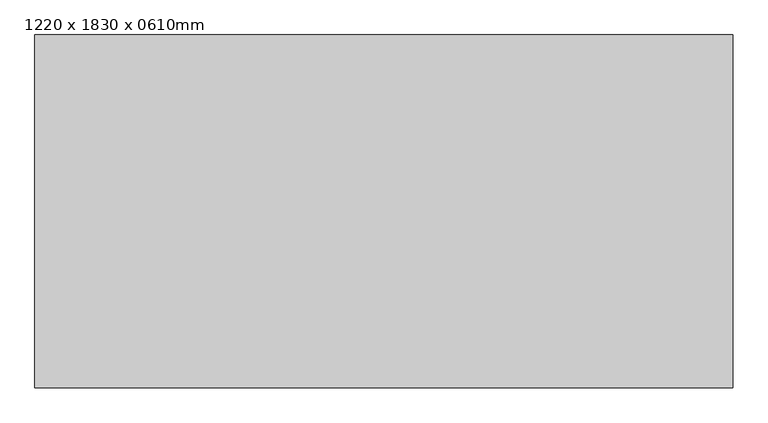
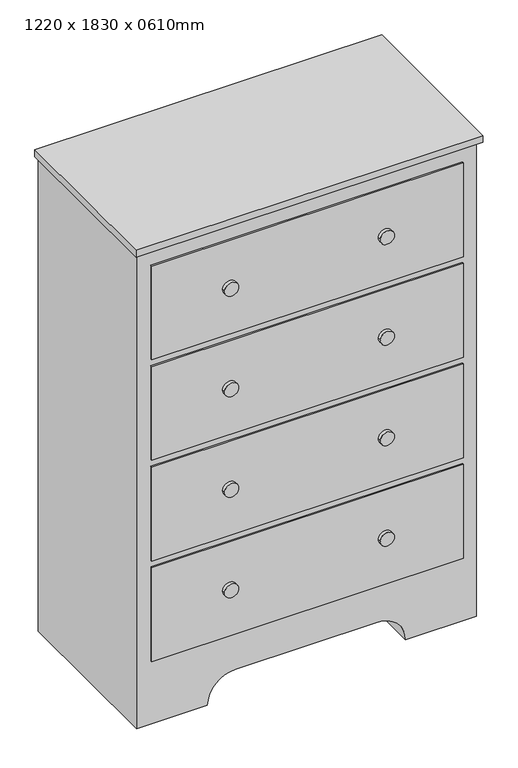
"""IFC4 building model written with IfcOpenShell, lengths in millimetres: furniture geometry, Prádelník : 1220 x 1830 x 0610mm."""

from ifc_helpers import new_model, si_unit, point, frame, frame_2d, origin, place, context, project, spatial, polyline, circle_curve, trimmed, segment, composite_curve, outline, extrude, source, transform, mapped, element, save


def furniture_1220_x_1830_x_0610mm_7cb11019(model_context):
    return source(origin(), model_context, "Body", "SweptSolid", [
        extrude(outline(polyline([(353.5067402, -58.1629541), (353.5067402, -687.2129541), (-891.8932598, -687.2129541), (-891.8932598, -58.1629541), (353.5067402, -58.1629541)])), frame((0.0, 0.0, 1804.6), z_axis=(0.0, 0.0, 1.0), x_axis=(1.0, 0.0, 0.0)), (0.0, 0.0, 1.0), 25.4),
        extrude(outline(composite_curve([segment(polyline([(0.0, 340.8067402), (1804.6, 340.8067402), (1804.6, -879.1932598), (0.0, -879.1932598), (0.0, -625.1932598)]), True, "CONTINUOUS"), segment(trimmed(circle_curve(frame_2d((0.0, -523.5932598)), 101.6), [point((0.0, -625.1932598))], [point((101.6, -523.5932598))], True, "CARTESIAN"), True, "CONTINUOUS"), segment(polyline([(101.6, -523.5932598), (101.6, -14.7932598)]), True, "CONTINUOUS"), segment(trimmed(circle_curve(frame_2d((0.0, -14.7932598)), 101.6), [point((101.6, -14.7932598))], [point((0.0, 86.8067402))], True, "CARTESIAN"), True, "CONTINUOUS"), segment(polyline([(0.0, 86.8067402), (0.0, 340.8067402)]), True, "CONTINUOUS")], self_intersect=False)), frame((0.0, -668.1629541, 0.0), z_axis=(0.0, 1.0, 0.0), x_axis=(0.0, 0.0, 1.0)), (0.0, 0.0, 1.0), 610.0),
        extrude(outline(composite_curve([segment(trimmed(circle_curve(frame_2d((1563.15, 10.4067402)), 25.4), [point((1563.15, -14.9932598))], [point((1563.15, 35.8067402))], False, "CARTESIAN"), True, "CONTINUOUS"), segment(trimmed(circle_curve(frame_2d((1563.15, 10.4067402)), 25.4), [point((1563.15, 35.8067402))], [point((1563.15, -14.9932598))], False, "CARTESIAN"), True, "CONTINUOUS")], self_intersect=False)), frame((0.0, -687.2129541, 0.0), z_axis=(0.0, 1.0, 0.0), x_axis=(0.0, 0.0, 1.0)), (0.0, 0.0, 1.0), 12.7),
        extrude(outline(composite_curve([segment(trimmed(circle_curve(frame_2d((1181.85, 10.4067402)), 25.4), [point((1181.85, -14.9932598))], [point((1181.85, 35.8067402))], False, "CARTESIAN"), True, "CONTINUOUS"), segment(trimmed(circle_curve(frame_2d((1181.85, 10.4067402)), 25.4), [point((1181.85, 35.8067402))], [point((1181.85, -14.9932598))], False, "CARTESIAN"), True, "CONTINUOUS")], self_intersect=False)), frame((0.0, -687.2129541, 0.0), z_axis=(0.0, 1.0, 0.0), x_axis=(0.0, 0.0, 1.0)), (0.0, 0.0, 1.0), 12.7),
        extrude(outline(composite_curve([segment(trimmed(circle_curve(frame_2d((800.55, 10.4067402)), 25.4), [point((800.55, -14.9932598))], [point((800.55, 35.8067402))], False, "CARTESIAN"), True, "CONTINUOUS"), segment(trimmed(circle_curve(frame_2d((800.55, 10.4067402)), 25.4), [point((800.55, 35.8067402))], [point((800.55, -14.9932598))], False, "CARTESIAN"), True, "CONTINUOUS")], self_intersect=False)), frame((0.0, -687.2129541, 0.0), z_axis=(0.0, 1.0, 0.0), x_axis=(0.0, 0.0, 1.0)), (0.0, 0.0, 1.0), 12.7),
        extrude(outline(composite_curve([segment(trimmed(circle_curve(frame_2d((419.25, 10.4067402)), 25.4), [point((419.25, -14.9932598))], [point((419.25, 35.8067402))], False, "CARTESIAN"), True, "CONTINUOUS"), segment(trimmed(circle_curve(frame_2d((419.25, 10.4067402)), 25.4), [point((419.25, 35.8067402))], [point((419.25, -14.9932598))], False, "CARTESIAN"), True, "CONTINUOUS")], self_intersect=False)), frame((0.0, -687.2129541, 0.0), z_axis=(0.0, 1.0, 0.0), x_axis=(0.0, 0.0, 1.0)), (0.0, 0.0, 1.0), 12.7),
        extrude(outline(composite_curve([segment(trimmed(circle_curve(frame_2d((419.25, -548.7932598)), 25.4), [point((419.25, -574.1932598))], [point((419.25, -523.3932598))], False, "CARTESIAN"), True, "CONTINUOUS"), segment(trimmed(circle_curve(frame_2d((419.25, -548.7932598)), 25.4), [point((419.25, -523.3932598))], [point((419.25, -574.1932598))], False, "CARTESIAN"), True, "CONTINUOUS")], self_intersect=False)), frame((0.0, -687.2129541, 0.0), z_axis=(0.0, 1.0, 0.0), x_axis=(0.0, 0.0, 1.0)), (0.0, 0.0, 1.0), 12.7),
        extrude(outline(composite_curve([segment(trimmed(circle_curve(frame_2d((800.55, -548.7932598)), 25.4), [point((800.55, -574.1932598))], [point((800.55, -523.3932598))], False, "CARTESIAN"), True, "CONTINUOUS"), segment(trimmed(circle_curve(frame_2d((800.55, -548.7932598)), 25.4), [point((800.55, -523.3932598))], [point((800.55, -574.1932598))], False, "CARTESIAN"), True, "CONTINUOUS")], self_intersect=False)), frame((0.0, -687.2129541, 0.0), z_axis=(0.0, 1.0, 0.0), x_axis=(0.0, 0.0, 1.0)), (0.0, 0.0, 1.0), 12.7),
        extrude(outline(composite_curve([segment(trimmed(circle_curve(frame_2d((1181.85, -548.7932598)), 25.4), [point((1181.85, -574.1932598))], [point((1181.85, -523.3932598))], False, "CARTESIAN"), True, "CONTINUOUS"), segment(trimmed(circle_curve(frame_2d((1181.85, -548.7932598)), 25.4), [point((1181.85, -523.3932598))], [point((1181.85, -574.1932598))], False, "CARTESIAN"), True, "CONTINUOUS")], self_intersect=False)), frame((0.0, -687.2129541, 0.0), z_axis=(0.0, 1.0, 0.0), x_axis=(0.0, 0.0, 1.0)), (0.0, 0.0, 1.0), 12.7),
        extrude(outline(composite_curve([segment(trimmed(circle_curve(frame_2d((1563.15, -548.7932598)), 25.4), [point((1563.15, -574.1932598))], [point((1563.15, -523.3932598))], False, "CARTESIAN"), True, "CONTINUOUS"), segment(trimmed(circle_curve(frame_2d((1563.15, -548.7932598)), 25.4), [point((1563.15, -523.3932598))], [point((1563.15, -574.1932598))], False, "CARTESIAN"), True, "CONTINUOUS")], self_intersect=False)), frame((0.0, -687.2129541, 0.0), z_axis=(0.0, 1.0, 0.0), x_axis=(0.0, 0.0, 1.0)), (0.0, 0.0, 1.0), 12.7),
        extrude(outline(polyline([(290.0067402, -674.5129541), (-828.3932598, -674.5129541), (-828.3932598, -668.1629541), (290.0067402, -668.1629541), (290.0067402, -674.5129541)])), frame((0.0, 0.0, 1385.2), z_axis=(0.0, 0.0, 1.0), x_axis=(1.0, 0.0, 0.0)), (0.0, 0.0, 1.0), 355.9),
        extrude(outline(polyline([(290.0067402, -674.5129541), (-828.3932598, -674.5129541), (-828.3932598, -668.1629541), (290.0067402, -668.1629541), (290.0067402, -674.5129541)])), frame((0.0, 0.0, 1003.9), z_axis=(0.0, 0.0, 1.0), x_axis=(1.0, 0.0, 0.0)), (0.0, 0.0, 1.0), 355.9),
        extrude(outline(polyline([(290.0067402, -674.5129541), (-828.3932598, -674.5129541), (-828.3932598, -668.1629541), (290.0067402, -668.1629541), (290.0067402, -674.5129541)])), frame((0.0, 0.0, 622.6), z_axis=(0.0, 0.0, 1.0), x_axis=(1.0, 0.0, 0.0)), (0.0, 0.0, 1.0), 355.9),
        extrude(outline(polyline([(290.0067402, -674.5129541), (-828.3932598, -674.5129541), (-828.3932598, -668.1629541), (290.0067402, -668.1629541), (290.0067402, -674.5129541)])), frame((0.0, 0.0, 241.3), z_axis=(0.0, 0.0, 1.0), x_axis=(1.0, 0.0, 0.0)), (0.0, 0.0, 1.0), 355.9),
    ])


if __name__ == "__main__":
    model = new_model("IFC4")
    model_context = context("Model", 3, world=origin())
    ifc_project = project(units=[si_unit("LENGTHUNIT", "METRE", prefix="MILLI")], contexts=[model_context])
    site = spatial("IfcSite", under=ifc_project)
    building = spatial("IfcBuilding", under=site)
    placement = place(None, origin())
    furniture_1220_x_1830_x_0610mm_shape = furniture_1220_x_1830_x_0610mm_7cb11019(model_context)
    element("IfcFurniture", 1, ObjectType="Prádelník : 1220 x 1830 x 0610mm", at=placement, inside=building, context=model_context, shape_type="MappedRepresentation", body=[
        mapped(furniture_1220_x_1830_x_0610mm_shape, transform((0.0, 0.0, 0.0), x_axis=(1.0, 0.0, 0.0), y_axis=(0.0, 1.0, 0.0), z_axis=(0.0, 0.0, 1.0))),
    ])
    save(model, "model.ifc")
